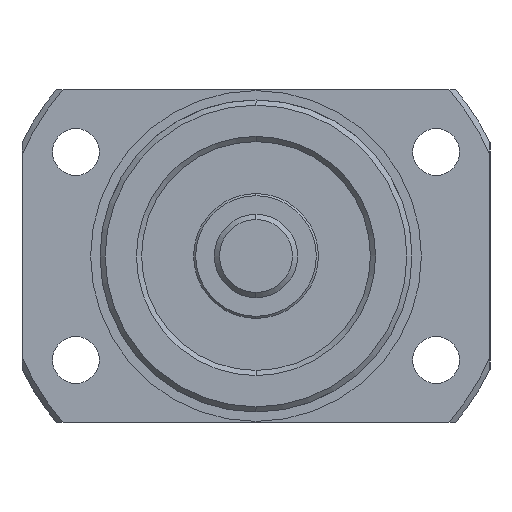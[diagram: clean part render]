
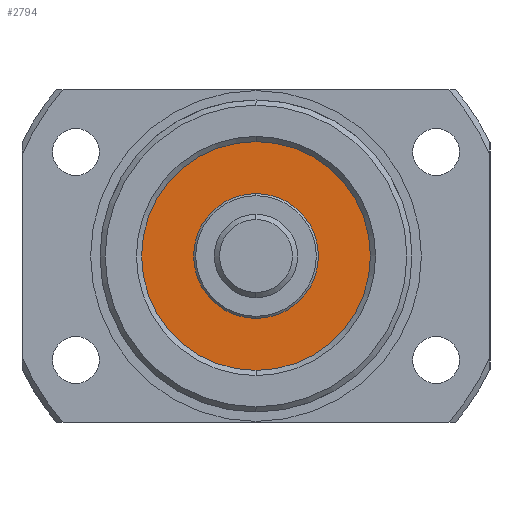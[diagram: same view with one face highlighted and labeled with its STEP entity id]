
A CAD part, left-side view. The second image highlights one B-rep face of the part: STEP entity #2794.
In plain terms, the highlighted planar face has unit normal (-1, 0, 0).
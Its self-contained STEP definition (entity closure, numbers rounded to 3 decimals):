
#168 = AXIS2_PLACEMENT_3D ( 'NONE', #6061, #6087, #6052 ) ;
#241 = AXIS2_PLACEMENT_3D ( 'NONE', #2386, #2387, #2226 ) ;
#264 = AXIS2_PLACEMENT_3D ( 'NONE', #3063, #3062, #3061 ) ;
#265 = AXIS2_PLACEMENT_3D ( 'NONE', #3056, #3054, #3060 ) ;
#2226 = DIRECTION ( 'NONE',  ( 0., 0., 1. ) ) ;
#2386 = CARTESIAN_POINT ( 'NONE',  ( -35.5, 0., 0. ) ) ;
#2387 = DIRECTION ( 'NONE',  ( -1., 0., 0. ) ) ;
#2456 = EDGE_CURVE ( 'NONE', #3274, #3411, #4785, .T. ) ;
#2488 = EDGE_CURVE ( 'NONE', #3530, #4766, #4817, .T. ) ;
#2489 = EDGE_CURVE ( 'NONE', #4766, #3530, #4818, .T. ) ;
#2578 = AXIS2_PLACEMENT_3D ( 'NONE', #4086, #4088, #4087 ) ;
#2794 = ADVANCED_FACE ( 'NONE', ( #4828, #4833 ), #6055, .T. ) ;
#3054 = DIRECTION ( 'NONE',  ( -1., 0., 0. ) ) ;
#3056 = CARTESIAN_POINT ( 'NONE',  ( -35.5, 0., 0. ) ) ;
#3060 = DIRECTION ( 'NONE',  ( 0., 0., 1. ) ) ;
#3061 = DIRECTION ( 'NONE',  ( 0., 0., 1. ) ) ;
#3062 = DIRECTION ( 'NONE',  ( -1., 0., 0. ) ) ;
#3063 = CARTESIAN_POINT ( 'NONE',  ( -35.5, 0., 0. ) ) ;
#3261 = ORIENTED_EDGE ( 'NONE', *, *, #2489, .T. ) ;
#3274 = VERTEX_POINT ( 'NONE', #5939 ) ;
#3296 = ORIENTED_EDGE ( 'NONE', *, *, #2488, .T. ) ;
#3411 = VERTEX_POINT ( 'NONE', #6105 ) ;
#3426 = EDGE_LOOP ( 'NONE', ( #3644, #3637 ) ) ;
#3436 = EDGE_LOOP ( 'NONE', ( #3261, #3296 ) ) ;
#3530 = VERTEX_POINT ( 'NONE', #5930 ) ;
#3637 = ORIENTED_EDGE ( 'NONE', *, *, #2456, .F. ) ;
#3644 = ORIENTED_EDGE ( 'NONE', *, *, #5568, .F. ) ;
#4086 = CARTESIAN_POINT ( 'NONE',  ( -35.5, 0., 0. ) ) ;
#4087 = DIRECTION ( 'NONE',  ( 0., 0., 1. ) ) ;
#4088 = DIRECTION ( 'NONE',  ( -1., 0., 0. ) ) ;
#4206 = CARTESIAN_POINT ( 'NONE',  ( -35.5, 0., -11. ) ) ;
#4766 = VERTEX_POINT ( 'NONE', #4206 ) ;
#4785 = CIRCLE ( 'NONE', #241, 6. ) ;
#4817 = CIRCLE ( 'NONE', #265, 11. ) ;
#4818 = CIRCLE ( 'NONE', #264, 11. ) ;
#4828 = FACE_BOUND ( 'NONE', #3426, .T. ) ;
#4833 = FACE_OUTER_BOUND ( 'NONE', #3436, .T. ) ;
#5453 = CIRCLE ( 'NONE', #2578, 6. ) ;
#5568 = EDGE_CURVE ( 'NONE', #3411, #3274, #5453, .T. ) ;
#5930 = CARTESIAN_POINT ( 'NONE',  ( -35.5, 0., 11. ) ) ;
#5939 = CARTESIAN_POINT ( 'NONE',  ( -35.5, 0., 6. ) ) ;
#6052 = DIRECTION ( 'NONE',  ( 0., 0., 1. ) ) ;
#6055 = PLANE ( 'NONE',  #168 ) ;
#6061 = CARTESIAN_POINT ( 'NONE',  ( -35.5, 0., 0. ) ) ;
#6087 = DIRECTION ( 'NONE',  ( -1., 0., 0. ) ) ;
#6105 = CARTESIAN_POINT ( 'NONE',  ( -35.5, 0., -6. ) ) ;
